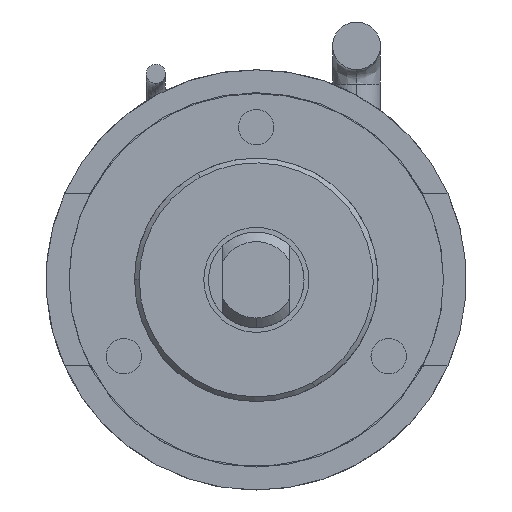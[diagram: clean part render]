
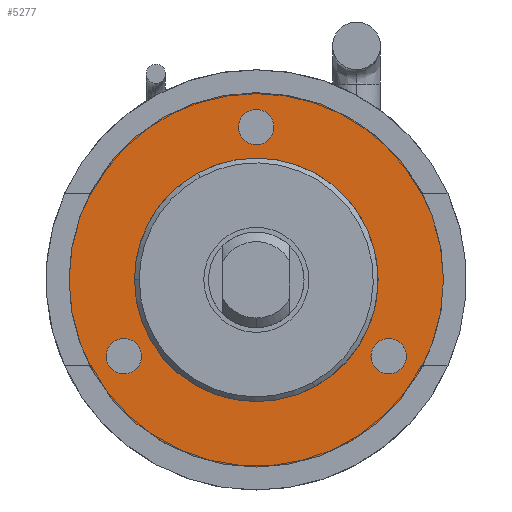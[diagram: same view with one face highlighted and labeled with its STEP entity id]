
A CAD part, left-side view. The second image highlights one B-rep face of the part: STEP entity #5277.
In plain terms, the highlighted planar face has unit normal (-1, 0, 0).
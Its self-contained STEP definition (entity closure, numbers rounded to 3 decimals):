
#122 = EDGE_LOOP ( 'NONE', ( #5940, #3352 ) ) ;
#188 = CIRCLE ( 'NONE', #4099, 1.85 ) ;
#198 = EDGE_CURVE ( 'NONE', #4615, #6078, #405, .T. ) ;
#380 = CIRCLE ( 'NONE', #4484, 1.85 ) ;
#405 = CIRCLE ( 'NONE', #880, 1.85 ) ;
#622 = ORIENTED_EDGE ( 'NONE', *, *, #6447, .T. ) ;
#702 = ORIENTED_EDGE ( 'NONE', *, *, #3911, .T. ) ;
#880 = AXIS2_PLACEMENT_3D ( 'NONE', #7272, #7293, #3224 ) ;
#1050 = CARTESIAN_POINT ( 'NONE',  ( -26.963, 11.742, 35.745 ) ) ;
#1070 = DIRECTION ( 'NONE',  ( 0., 0., -1. ) ) ;
#1078 = DIRECTION ( 'NONE',  ( 1., 0., 0. ) ) ;
#1089 = CARTESIAN_POINT ( 'NONE',  ( -26.963, -2.114, 13.595 ) ) ;
#1346 = DIRECTION ( 'NONE',  ( 0., 0., 1. ) ) ;
#1371 = CARTESIAN_POINT ( 'NONE',  ( -26.963, 11.742, 34.345 ) ) ;
#1413 = CARTESIAN_POINT ( 'NONE',  ( -26.963, -2.114, 11.745 ) ) ;
#1490 = EDGE_LOOP ( 'NONE', ( #1636, #622 ) ) ;
#1493 = PLANE ( 'NONE',  #6472 ) ;
#1636 = ORIENTED_EDGE ( 'NONE', *, *, #198, .T. ) ;
#1756 = VERTEX_POINT ( 'NONE', #3537 ) ;
#1835 = FACE_OUTER_BOUND ( 'NONE', #1943, .T. ) ;
#1840 = FACE_BOUND ( 'NONE', #122, .T. ) ;
#1847 = VERTEX_POINT ( 'NONE', #4339 ) ;
#1858 = FACE_BOUND ( 'NONE', #1490, .T. ) ;
#1879 = FACE_BOUND ( 'NONE', #5663, .T. ) ;
#1919 = DIRECTION ( 'NONE',  ( -1., 0., 0. ) ) ;
#1921 = FACE_BOUND ( 'NONE', #2878, .T. ) ;
#1943 = EDGE_LOOP ( 'NONE', ( #3566, #4166 ) ) ;
#1948 = DIRECTION ( 'NONE',  ( 0., 0., -1. ) ) ;
#1950 = DIRECTION ( 'NONE',  ( 1., 0., 0. ) ) ;
#1959 = CARTESIAN_POINT ( 'NONE',  ( -26.963, 11.742, 37.595 ) ) ;
#1981 = CARTESIAN_POINT ( 'NONE',  ( -26.963, 11.742, 1.995 ) ) ;
#2029 = VERTEX_POINT ( 'NONE', #6609 ) ;
#2242 = EDGE_CURVE ( 'NONE', #3173, #1756, #6836, .T. ) ;
#2265 = CARTESIAN_POINT ( 'NONE',  ( -26.963, 11.742, 41.195 ) ) ;
#2547 = EDGE_CURVE ( 'NONE', #1847, #2029, #6273, .T. ) ;
#2597 = EDGE_CURVE ( 'NONE', #4008, #4180, #6221, .T. ) ;
#2809 = DIRECTION ( 'NONE',  ( 0., 0., 1. ) ) ;
#2817 = DIRECTION ( 'NONE',  ( 1., 0., 0. ) ) ;
#2825 = CARTESIAN_POINT ( 'NONE',  ( -26.963, 11.742, 21.595 ) ) ;
#2878 = EDGE_LOOP ( 'NONE', ( #7397, #702 ) ) ;
#2952 = ORIENTED_EDGE ( 'NONE', *, *, #6698, .T. ) ;
#2975 = VERTEX_POINT ( 'NONE', #5238 ) ;
#3144 = CIRCLE ( 'NONE', #7243, 12.75 ) ;
#3173 = VERTEX_POINT ( 'NONE', #1413 ) ;
#3213 = AXIS2_PLACEMENT_3D ( 'NONE', #5093, #5090, #5082 ) ;
#3224 = DIRECTION ( 'NONE',  ( 0., 0., -1. ) ) ;
#3352 = ORIENTED_EDGE ( 'NONE', *, *, #7103, .T. ) ;
#3537 = CARTESIAN_POINT ( 'NONE',  ( -26.963, -2.114, 15.445 ) ) ;
#3539 = AXIS2_PLACEMENT_3D ( 'NONE', #6607, #6519, #6507 ) ;
#3541 = CARTESIAN_POINT ( 'NONE',  ( -26.963, 11.742, 39.445 ) ) ;
#3566 = ORIENTED_EDGE ( 'NONE', *, *, #2597, .F. ) ;
#3847 = CARTESIAN_POINT ( 'NONE',  ( -26.963, 11.742, 8.845 ) ) ;
#3911 = EDGE_CURVE ( 'NONE', #5968, #2975, #3144, .T. ) ;
#3918 = DIRECTION ( 'NONE',  ( 0., 0., 1. ) ) ;
#3956 = DIRECTION ( 'NONE',  ( 1., 0., 0. ) ) ;
#3957 = DIRECTION ( 'NONE',  ( 1., 0., 0. ) ) ;
#3974 = CARTESIAN_POINT ( 'NONE',  ( -26.963, 11.742, 21.595 ) ) ;
#3988 = CARTESIAN_POINT ( 'NONE',  ( -26.963, -2.114, 13.595 ) ) ;
#3999 = DIRECTION ( 'NONE',  ( 0., 0., -1. ) ) ;
#4008 = VERTEX_POINT ( 'NONE', #2265 ) ;
#4071 = ORIENTED_EDGE ( 'NONE', *, *, #2242, .T. ) ;
#4099 = AXIS2_PLACEMENT_3D ( 'NONE', #1089, #1078, #1070 ) ;
#4166 = ORIENTED_EDGE ( 'NONE', *, *, #7240, .F. ) ;
#4180 = VERTEX_POINT ( 'NONE', #1981 ) ;
#4339 = CARTESIAN_POINT ( 'NONE',  ( -26.963, 25.599, 11.745 ) ) ;
#4484 = AXIS2_PLACEMENT_3D ( 'NONE', #1959, #1950, #1948 ) ;
#4549 = AXIS2_PLACEMENT_3D ( 'NONE', #3988, #3956, #3999 ) ;
#4615 = VERTEX_POINT ( 'NONE', #1050 ) ;
#5082 = DIRECTION ( 'NONE',  ( 0., 0., 1. ) ) ;
#5090 = DIRECTION ( 'NONE',  ( 1., 0., 0. ) ) ;
#5093 = CARTESIAN_POINT ( 'NONE',  ( -26.963, 11.742, 21.595 ) ) ;
#5110 = AXIS2_PLACEMENT_3D ( 'NONE', #5353, #5348, #5334 ) ;
#5238 = CARTESIAN_POINT ( 'NONE',  ( -26.963, 11.742, 34.345 ) ) ;
#5277 = ADVANCED_FACE ( 'NONE', ( #1921, #1858, #1879, #1840, #1835 ), #1493, .T. ) ;
#5334 = DIRECTION ( 'NONE',  ( 0., 0., -1. ) ) ;
#5348 = DIRECTION ( 'NONE',  ( 1., 0., 0. ) ) ;
#5353 = CARTESIAN_POINT ( 'NONE',  ( -26.963, 25.599, 13.595 ) ) ;
#5663 = EDGE_LOOP ( 'NONE', ( #4071, #2952 ) ) ;
#5940 = ORIENTED_EDGE ( 'NONE', *, *, #2547, .T. ) ;
#5968 = VERTEX_POINT ( 'NONE', #3847 ) ;
#6078 = VERTEX_POINT ( 'NONE', #3541 ) ;
#6221 = CIRCLE ( 'NONE', #6411, 19.6 ) ;
#6273 = CIRCLE ( 'NONE', #5110, 1.85 ) ;
#6289 = CIRCLE ( 'NONE', #3213, 12.75 ) ;
#6411 = AXIS2_PLACEMENT_3D ( 'NONE', #3974, #3957, #3918 ) ;
#6447 = EDGE_CURVE ( 'NONE', #6078, #4615, #380, .T. ) ;
#6472 = AXIS2_PLACEMENT_3D ( 'NONE', #1371, #1919, #1346 ) ;
#6507 = DIRECTION ( 'NONE',  ( 0., 0., -1. ) ) ;
#6519 = DIRECTION ( 'NONE',  ( 1., 0., 0. ) ) ;
#6607 = CARTESIAN_POINT ( 'NONE',  ( -26.963, 25.599, 13.595 ) ) ;
#6609 = CARTESIAN_POINT ( 'NONE',  ( -26.963, 25.599, 15.445 ) ) ;
#6698 = EDGE_CURVE ( 'NONE', #1756, #3173, #188, .T. ) ;
#6836 = CIRCLE ( 'NONE', #4549, 1.85 ) ;
#7103 = EDGE_CURVE ( 'NONE', #2029, #1847, #7946, .T. ) ;
#7240 = EDGE_CURVE ( 'NONE', #4180, #4008, #7589, .T. ) ;
#7243 = AXIS2_PLACEMENT_3D ( 'NONE', #2825, #2817, #2809 ) ;
#7272 = CARTESIAN_POINT ( 'NONE',  ( -26.963, 11.742, 37.595 ) ) ;
#7293 = DIRECTION ( 'NONE',  ( 1., 0., 0. ) ) ;
#7397 = ORIENTED_EDGE ( 'NONE', *, *, #8052, .T. ) ;
#7578 = AXIS2_PLACEMENT_3D ( 'NONE', #7916, #7907, #7895 ) ;
#7589 = CIRCLE ( 'NONE', #7578, 19.6 ) ;
#7895 = DIRECTION ( 'NONE',  ( 0., 0., 1. ) ) ;
#7907 = DIRECTION ( 'NONE',  ( 1., 0., 0. ) ) ;
#7916 = CARTESIAN_POINT ( 'NONE',  ( -26.963, 11.742, 21.595 ) ) ;
#7946 = CIRCLE ( 'NONE', #3539, 1.85 ) ;
#8052 = EDGE_CURVE ( 'NONE', #2975, #5968, #6289, .T. ) ;
